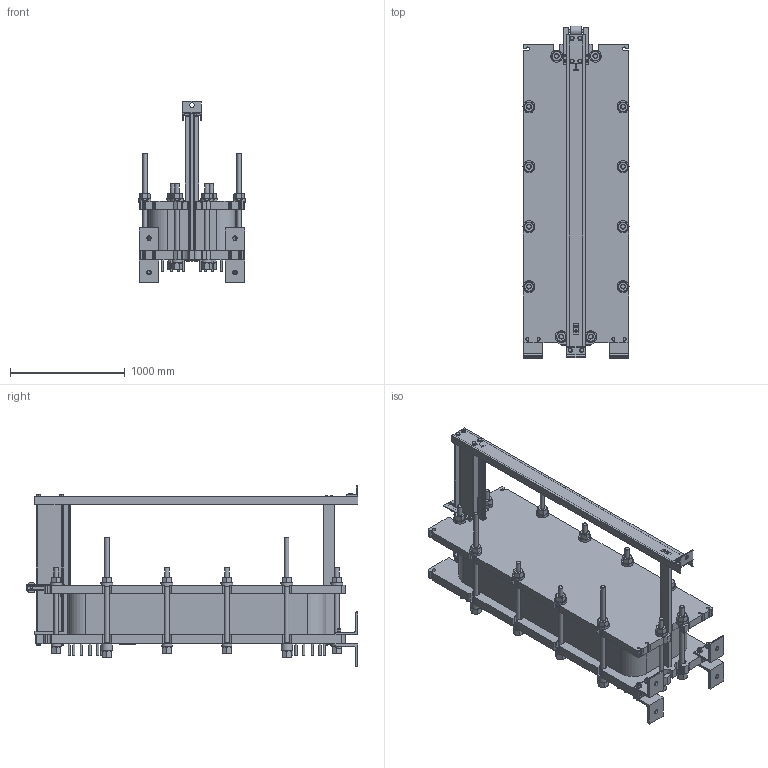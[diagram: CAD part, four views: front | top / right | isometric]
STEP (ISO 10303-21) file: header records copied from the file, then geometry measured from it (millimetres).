
FILE_DESCRIPTION((''),'2;1');
FILE_NAME('C:\temp\MX25_FG_LC1200_7_02_Rev0.stp','2009-09-27T04:50:36',('CNSHFLU'),(''),'Autodesk Inventor 2008','Autodesk Inventor 2008','');
FILE_SCHEMA(('AUTOMOTIVE_DESIGN { 1 2 10303 214 0 1 1 1 }'));
Length unit declared in the file: millimetre
Products named in the file (1): MX25
Bounding box: 925 x 2893.33 x 1585.5 mm (x, y, z)
Volume: 920031785.3 mm3; surface area: 17789539.1 mm2
Topology: 1 solids, 16 shells, 2811 faces, 6657 edges, 4150 vertices
Faces by surface type: plane 1376, cone 728, cylinder 620, bspline 87
Full cylindrical faces by diameter (mm): 9.45 x4, 12 x12, 13 x10, 14 x2, 18 x4, 20 x63, 21 x13, 22 x5, 24 x20, 25 x8, 26 x4, 30 x2, 34.295 x4, 37 x10, 39 x24, 40 x5, 44 x8, 53 x24, 63 x12, 90 x8, 96 x4, 105 x12, 229 x4, 230 x4
Entity records: 77880 total; most frequent: CARTESIAN_POINT 16725, DIRECTION 12620, ORIENTED_EDGE 12428, EDGE_CURVE 6214, AXIS2_PLACEMENT_3D 4927, VERTEX_POINT 4098, EDGE_LOOP 3552, FACE_OUTER_BOUND 2811
